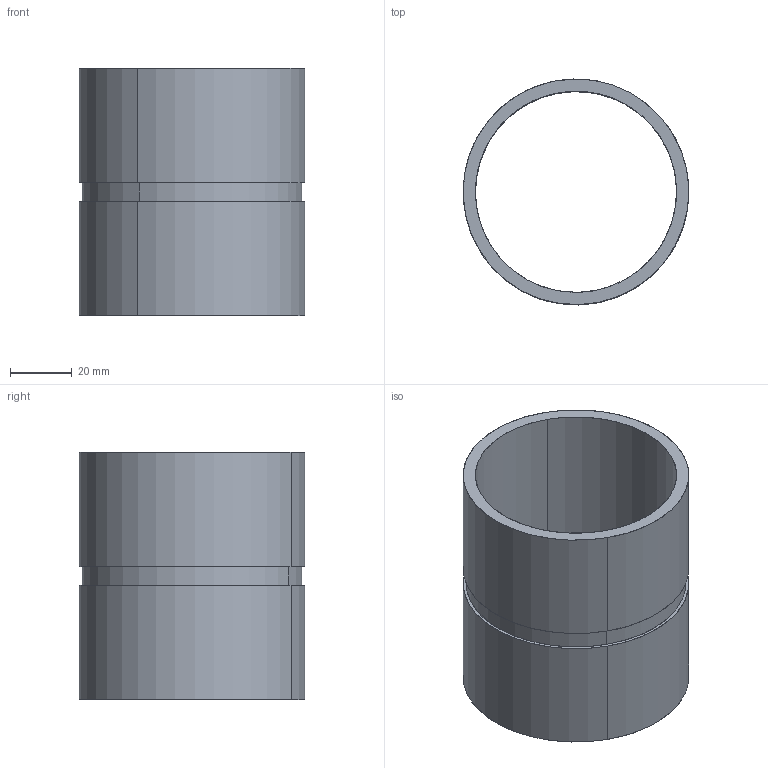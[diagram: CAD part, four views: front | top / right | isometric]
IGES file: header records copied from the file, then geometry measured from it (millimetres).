
Start section: START RECORD GO HERE.
Global section: file name: 395H 19-232-0252.igs; native system: DASSAULT SYSTEMES CATIA V5 R20 - www.3ds.com; preprocessor: CATIA Version 5 Release 20 ; author: Utente; organization: NB04-ASUS; date: 20200409.155249; units: millimetre
Bounding box: 73.01 x 73.01 x 80 mm (x, y, z)
Surface area: 36851.3 mm2 (no closed solid volume)
Topology: 0 solids, 0 shells, 12 faces, 51 edges, 55 vertices
Faces by surface type: revolution 8, plane 4
